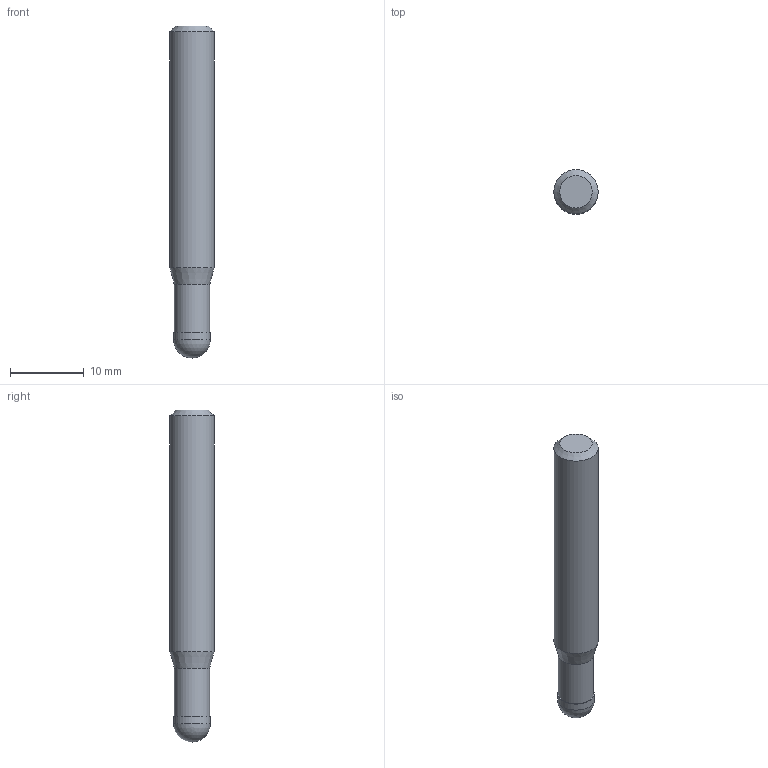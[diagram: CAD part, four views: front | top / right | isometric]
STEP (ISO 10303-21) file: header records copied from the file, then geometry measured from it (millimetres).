
FILE_DESCRIPTION((''),'2;1');
FILE_NAME('C:\Users\nsx150\AppData\Local\Temp\Mastercam 2021\QT8KEW0Y7J\TEMP.step','2021-04-23T11:22:02',(''),(''),'STEP Write','Mastercam 2021 ... CNC Software, Inc.','');
FILE_SCHEMA(('AUTOMOTIVE_DESIGN'));
Length unit declared in the file: millimetre
Products named in the file (1): None
Bounding box: 6 x 6 x 45 mm (x, y, z)
Volume: 1142.3 mm3; surface area: 866.2 mm2
Topology: 2 solids, 2 shells, 9 faces, 14 edges, 8 vertices
Faces by surface type: plane 3, cylinder 3, cone 2, sphere 1
Full cylindrical faces by diameter (mm): 4.8 x1, 5 x1, 6 x1
Entity records: 211 total; most frequent: DIRECTION 36, CARTESIAN_POINT 25, AXIS2_PLACEMENT_3D 18, ORIENTED_EDGE 14, EDGE_LOOP 14, STYLED_ITEM 12, ADVANCED_FACE 9, FACE_BOUND 8
